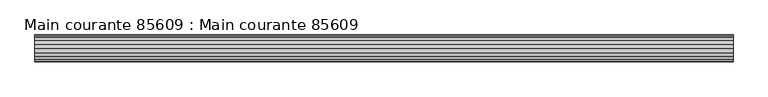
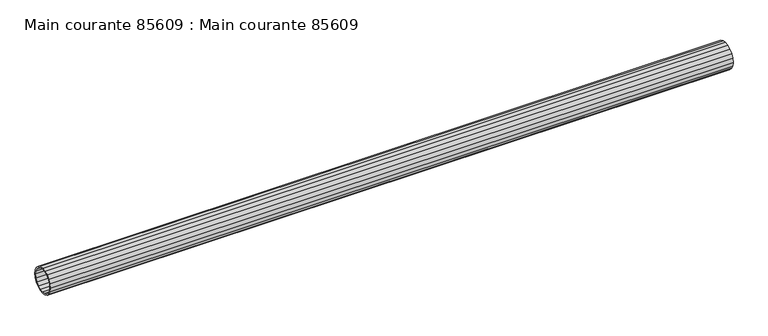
"""IFC4 building model written with IfcOpenShell, lengths in millimetres: beam geometry, Main courante 85609 : Main courante 85609."""

from ifc_helpers import new_model, si_unit, frame, origin, place, context, project, spatial, polyline, outline, extrude, source, transform, mapped, element, save


def main_courante_85609_main_courante_85609_dbe0c0d3(model_context):
    return source(origin(), model_context, "Body", "SweptSolid", [
        extrude(outline(polyline([(-14166.5, 8765.0), (-14165.3180149, 8772.4627604), (-14161.8877604, 8779.1950138), (-14156.5450138, 8784.5377604), (-14149.8127604, 8787.9680149), (-14142.35, 8789.15), (-14134.8872396, 8787.9680149), (-14128.1549862, 8784.5377604), (-14122.8122396, 8779.1950138), (-14119.3819851, 8772.4627604), (-14118.2, 8765.0), (-14119.3819851, 8757.5372396), (-14122.8122396, 8750.8049862), (-14128.1549862, 8745.4622396), (-14134.8872396, 8742.0319851), (-14142.35, 8740.85), (-14149.8127604, 8742.0319851), (-14156.5450138, 8745.4622396), (-14161.8877604, 8750.8049862), (-14165.3180149, 8757.5372396), (-14166.5, 8765.0)]), holes=[polyline([(-14120.7, 8765.0), (-14121.7596264, 8771.6902179), (-14124.8347821, 8777.7255507), (-14129.6244493, 8782.5152179), (-14135.6597821, 8785.5903736), (-14142.35, 8786.65), (-14149.0402179, 8785.5903736), (-14155.0755507, 8782.5152179), (-14159.8652179, 8777.7255507), (-14162.9403736, 8771.6902179), (-14164.0, 8765.0), (-14162.9403736, 8758.3097821), (-14159.8652179, 8752.2744493), (-14155.0755507, 8747.4847821), (-14149.0402179, 8744.4096264), (-14142.35, 8743.35), (-14135.6597821, 8744.4096264), (-14129.6244493, 8747.4847821), (-14124.8347821, 8752.2744493), (-14121.7596264, 8758.3097821), (-14120.7, 8765.0)])]), frame((10205.9999999, 0.0, 0.0), z_axis=(1.0, 0.0, 0.0), x_axis=(0.0, 1.0, 0.0)), (0.0, 0.0, 1.0), 1249.2815708),
    ])


if __name__ == "__main__":
    model = new_model("IFC4")
    model_context = context("Model", 3, world=origin())
    ifc_project = project(units=[si_unit("LENGTHUNIT", "METRE", prefix="MILLI")], contexts=[model_context])
    site = spatial("IfcSite", under=ifc_project)
    building = spatial("IfcBuilding", under=site)
    placement = place(None, origin())
    main_courante_85609_main_courante_85609_shape = main_courante_85609_main_courante_85609_dbe0c0d3(model_context)
    element("IfcBeam", 1, ObjectType="Main courante 85609 : Main courante 85609", at=placement, inside=building, context=model_context, shape_type="MappedRepresentation", body=[
        mapped(main_courante_85609_main_courante_85609_shape, transform((0.0, 0.0, 0.0), x_axis=(1.0, 0.0, 0.0), y_axis=(0.0, 1.0, 0.0), z_axis=(0.0, 0.0, 1.0))),
    ])
    save(model, "model.ifc")
